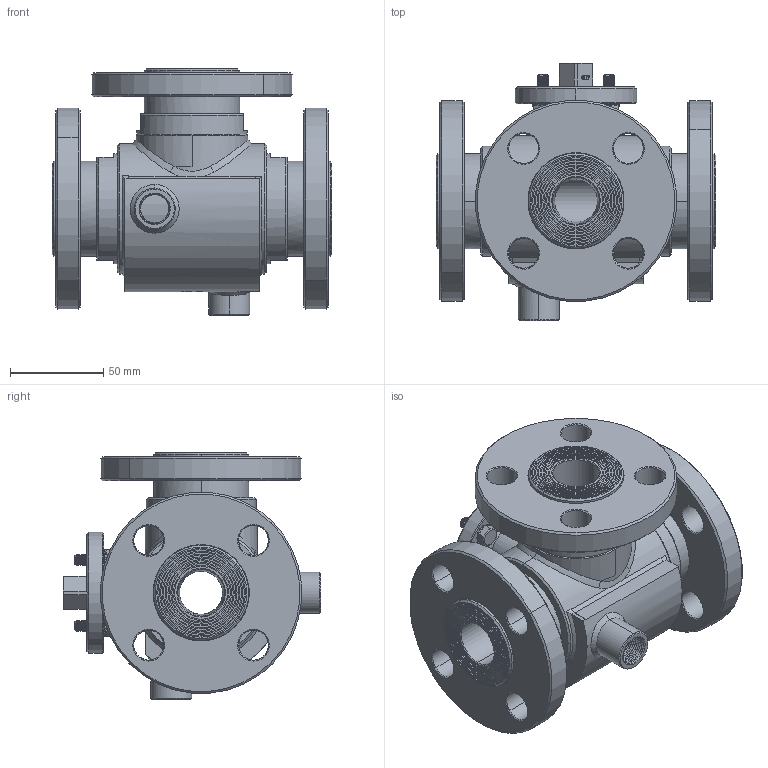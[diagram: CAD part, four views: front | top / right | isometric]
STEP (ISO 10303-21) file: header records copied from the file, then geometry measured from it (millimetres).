
FILE_DESCRIPTION((''),'2;1');
FILE_NAME('303055C6261F_SW0001','2026-09-04T16:32:51',('tecnico2'),('CDM Tecnoconsulting'),'CREO PARAMETRIC BY PTC INC, 2024063','CREO PARAMETRIC BY PTC INC, 2024063','');
FILE_SCHEMA(('CONFIG_CONTROL_DESIGN','SHAPE_APPEARANCE_LAYERS_GROUPS'));
Length unit declared in the file: millimetre
Products named in the file (1): 303055C6261F_SW0001
Bounding box: 150 x 137.75 x 132 mm (x, y, z)
Volume: 746467.5 mm3; surface area: 183365.9 mm2
Topology: 1 solids, 1 shells, 1932 faces, 5192 edges, 3267 vertices
Faces by surface type: plane 740, cylinder 484, cone 277, extrusion 166, bspline 143, torus 120, sphere 2
Entity records: 130374 total; most frequent: CARTESIAN_POINT 68982, ORIENTED_EDGE 10368, DIRECTION 7932, PRESENTATION_STYLE_ASSIGNMENT 5254, STYLED_ITEM 5185, CURVE_STYLE 5184, EDGE_CURVE 5184, VERTEX_POINT 3267
